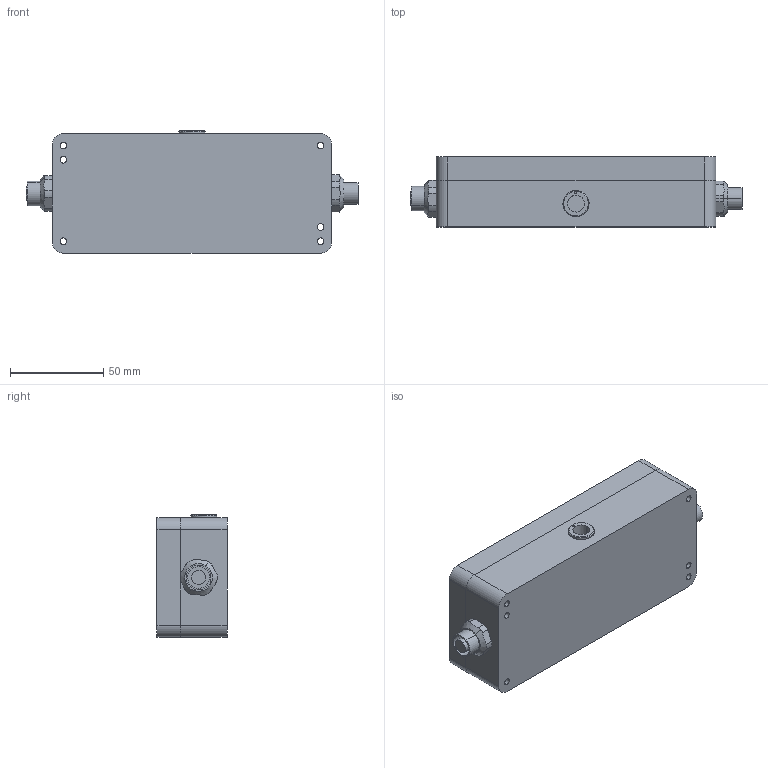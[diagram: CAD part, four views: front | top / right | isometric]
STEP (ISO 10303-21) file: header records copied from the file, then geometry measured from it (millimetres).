
FILE_DESCRIPTION (( 'STEP AP203' ), '1' );
FILE_NAME ('PZLX4-F-S-ID WEB AW.STEP', '2015-02-09T17:27:34', ( '' ), ( '' ), 'SwSTEP 2.0', 'SolidWorks 2013', '' );
FILE_SCHEMA (( 'CONFIG_CONTROL_DESIGN' ));
Length unit declared in the file: inch
Products named in the file (6): PZLX4-F-S-ID WEB AW; PZLX4 Case; PZLX4 Lid; fc_d_103_a056-130; male connector; female connector
Assembly tree (5 placements, depth 2):
  PZLX4-F-S-ID WEB AW
    PZLX4 Case
    PZLX4 Lid
    fc_d_103_a056-130
    male connector
    female connector
Bounding box: 178.05 x 37.59 x 65.53 mm (x, y, z)
Volume: 115069.6 mm3; surface area: 72032.7 mm2
Topology: 5 solids, 5 shells, 421 faces, 1118 edges, 742 vertices
Faces by surface type: plane 192, cylinder 129, bspline 83, cone 17
Entity records: 26276 total; most frequent: CARTESIAN_POINT 15671, ORIENTED_EDGE 2236, DIRECTION 1752, EDGE_CURVE 1118, VERTEX_POINT 742, LINE 626, VECTOR 626, AXIS2_PLACEMENT_3D 563
